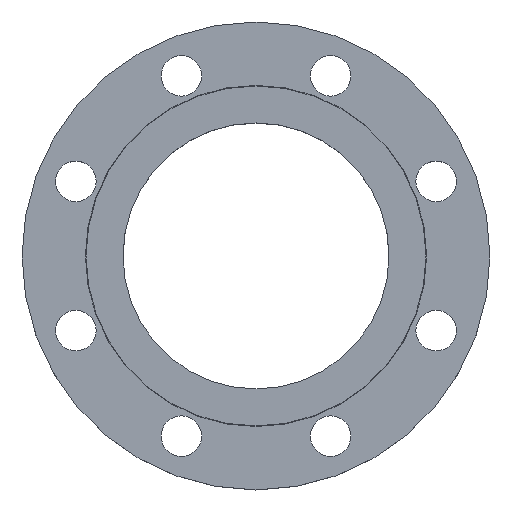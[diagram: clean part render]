
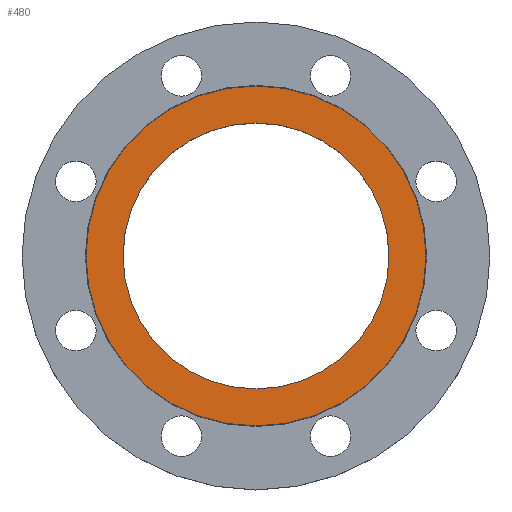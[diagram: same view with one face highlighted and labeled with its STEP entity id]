
A CAD part, top view. The second image highlights one B-rep face of the part: STEP entity #480.
In plain terms, the highlighted planar face has unit normal (0, 0, 1).
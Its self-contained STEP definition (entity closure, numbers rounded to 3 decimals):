
#40 = DIRECTION ( 'NONE',  ( 0., 0., 1. ) ) ;
#49 = CARTESIAN_POINT ( 'NONE',  ( 0., 0., 0. ) ) ;
#132 = FACE_OUTER_BOUND ( 'NONE', #893, .T. ) ;
#224 = AXIS2_PLACEMENT_3D ( 'NONE', #49, #435, #669 ) ;
#230 = CIRCLE ( 'NONE', #224, 109. ) ;
#238 = VERTEX_POINT ( 'NONE', #361 ) ;
#277 = CARTESIAN_POINT ( 'NONE',  ( 0., 0., 0. ) ) ;
#307 = DIRECTION ( 'NONE',  ( 0., 0., 1. ) ) ;
#311 = DIRECTION ( 'NONE',  ( 1., 0., 0. ) ) ;
#321 = AXIS2_PLACEMENT_3D ( 'NONE', #674, #995, #379 ) ;
#323 = CIRCLE ( 'NONE', #321, 109. ) ;
#339 = CARTESIAN_POINT ( 'NONE',  ( 0., 0., 0. ) ) ;
#361 = CARTESIAN_POINT ( 'NONE',  ( 85.25, 0., 0. ) ) ;
#377 = AXIS2_PLACEMENT_3D ( 'NONE', #710, #40, #429 ) ;
#379 = DIRECTION ( 'NONE',  ( -1., 0., 0. ) ) ;
#403 = EDGE_CURVE ( 'NONE', #238, #926, #627, .T. ) ;
#429 = DIRECTION ( 'NONE',  ( 1., 0., 0. ) ) ;
#435 = DIRECTION ( 'NONE',  ( 0., 0., -1. ) ) ;
#480 = ADVANCED_FACE ( 'NONE', ( #782, #132 ), #504, .T. ) ;
#481 = CARTESIAN_POINT ( 'NONE',  ( -109., 0., 0. ) ) ;
#504 = PLANE ( 'NONE',  #377 ) ;
#552 = AXIS2_PLACEMENT_3D ( 'NONE', #339, #631, #905 ) ;
#557 = CIRCLE ( 'NONE', #552, 85.25 ) ;
#625 = AXIS2_PLACEMENT_3D ( 'NONE', #277, #307, #311 ) ;
#627 = CIRCLE ( 'NONE', #625, 85.25 ) ;
#631 = DIRECTION ( 'NONE',  ( 0., 0., 1. ) ) ;
#637 = CARTESIAN_POINT ( 'NONE',  ( -85.25, 0., 0. ) ) ;
#642 = CARTESIAN_POINT ( 'NONE',  ( 109., 0., 0. ) ) ;
#669 = DIRECTION ( 'NONE',  ( -1., 0., 0. ) ) ;
#674 = CARTESIAN_POINT ( 'NONE',  ( 0., 0., 0. ) ) ;
#710 = CARTESIAN_POINT ( 'NONE',  ( 0., 0., 0. ) ) ;
#754 = EDGE_LOOP ( 'NONE', ( #929, #930 ) ) ;
#782 = FACE_BOUND ( 'NONE', #754, .T. ) ;
#788 = VERTEX_POINT ( 'NONE', #481 ) ;
#848 = EDGE_CURVE ( 'NONE', #926, #238, #557, .T. ) ;
#893 = EDGE_LOOP ( 'NONE', ( #931, #932 ) ) ;
#905 = DIRECTION ( 'NONE',  ( 1., 0., 0. ) ) ;
#906 = EDGE_CURVE ( 'NONE', #788, #1007, #230, .T. ) ;
#926 = VERTEX_POINT ( 'NONE', #637 ) ;
#929 = ORIENTED_EDGE ( 'NONE', *, *, #403, .F. ) ;
#930 = ORIENTED_EDGE ( 'NONE', *, *, #848, .F. ) ;
#931 = ORIENTED_EDGE ( 'NONE', *, *, #906, .F. ) ;
#932 = ORIENTED_EDGE ( 'NONE', *, *, #988, .F. ) ;
#988 = EDGE_CURVE ( 'NONE', #1007, #788, #323, .T. ) ;
#995 = DIRECTION ( 'NONE',  ( 0., 0., -1. ) ) ;
#1007 = VERTEX_POINT ( 'NONE', #642 ) ;
